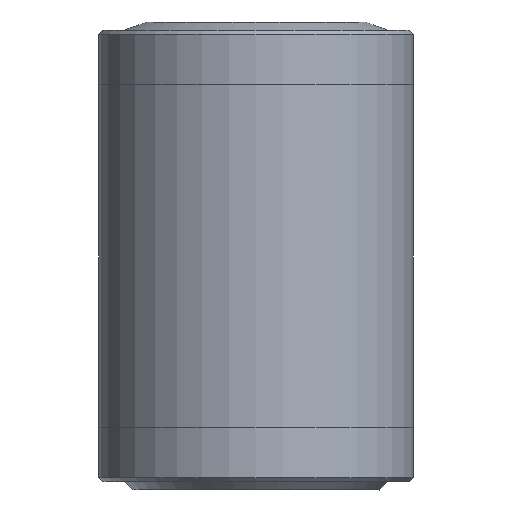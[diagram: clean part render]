
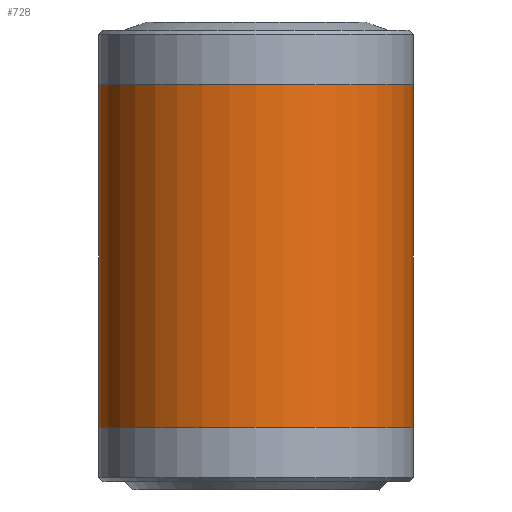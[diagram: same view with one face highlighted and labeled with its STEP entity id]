
A CAD part, front view. The second image highlights one B-rep face of the part: STEP entity #728.
In plain terms, the highlighted cylindrical face has radius 39 mm (diameter 78 mm), a full revolution.
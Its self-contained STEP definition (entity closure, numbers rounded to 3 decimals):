
#31=ELLIPSE('',#2923,55.154,39.);
#32=ELLIPSE('',#2924,55.154,39.);
#92=LINE('',#7399,#147);
#94=LINE('',#7404,#149);
#147=VECTOR('',#3603,1.);
#149=VECTOR('',#3605,1.);
#728=ADVANCED_FACE('',(#912,#913,#914),#810,.T.);
#810=CYLINDRICAL_SURFACE('',#2925,39.);
#912=FACE_BOUND('',#1141,.T.);
#913=FACE_BOUND('',#1142,.T.);
#914=FACE_BOUND('',#1143,.T.);
#1141=EDGE_LOOP('',(#1806,#1807,#1808,#1809));
#1142=EDGE_LOOP('',(#1810));
#1143=EDGE_LOOP('',(#1811));
#1806=ORIENTED_EDGE('',*,*,#2420,.F.);
#1807=ORIENTED_EDGE('',*,*,#2424,.T.);
#1808=ORIENTED_EDGE('',*,*,#2418,.F.);
#1809=ORIENTED_EDGE('',*,*,#2425,.T.);
#1810=ORIENTED_EDGE('',*,*,#2423,.T.);
#1811=ORIENTED_EDGE('',*,*,#2422,.F.);
#2081=VERTEX_POINT('',#7400);
#2082=VERTEX_POINT('',#7401);
#2083=VERTEX_POINT('',#7403);
#2084=VERTEX_POINT('',#7405);
#2085=VERTEX_POINT('',#7409);
#2086=VERTEX_POINT('',#7412);
#2418=EDGE_CURVE('',#2081,#2082,#92,.T.);
#2420=EDGE_CURVE('',#2083,#2084,#94,.T.);
#2422=EDGE_CURVE('',#2085,#2085,#2602,.T.);
#2423=EDGE_CURVE('',#2086,#2086,#2603,.T.);
#2424=EDGE_CURVE('',#2083,#2082,#31,.T.);
#2425=EDGE_CURVE('',#2081,#2084,#32,.T.);
#2602=CIRCLE('',#2919,39.);
#2603=CIRCLE('',#2921,39.);
#2919=AXIS2_PLACEMENT_3D('',#7408,#3609,#3610);
#2921=AXIS2_PLACEMENT_3D('',#7411,#3613,#3614);
#2923=AXIS2_PLACEMENT_3D('',#7414,#3617,#3618);
#2924=AXIS2_PLACEMENT_3D('',#7415,#3619,#3620);
#2925=AXIS2_PLACEMENT_3D('',#7416,#3621,#3622);
#3603=DIRECTION('',(0.,0.,-1.));
#3605=DIRECTION('',(0.,0.,1.));
#3609=DIRECTION('',(0.,0.,1.));
#3610=DIRECTION('',(1.,0.,0.));
#3613=DIRECTION('',(0.,0.,1.));
#3614=DIRECTION('',(-1.,0.,0.));
#3617=DIRECTION('',(0.,-0.707,-0.707));
#3618=DIRECTION('',(0.,0.707,-0.707));
#3619=DIRECTION('',(0.,-0.707,0.707));
#3620=DIRECTION('',(0.,-0.707,-0.707));
#3621=DIRECTION('',(0.,0.,-1.));
#3622=DIRECTION('',(-1.,0.,0.));
#7399=CARTESIAN_POINT('',(316.696,37.5,28.667));
#7400=CARTESIAN_POINT('',(316.696,37.5,-10.333));
#7401=CARTESIAN_POINT('',(316.696,37.5,-48.333));
#7403=CARTESIAN_POINT('',(289.554,37.5,-48.333));
#7404=CARTESIAN_POINT('',(289.554,37.5,-51.333));
#7405=CARTESIAN_POINT('',(289.554,37.5,-10.333));
#7408=CARTESIAN_POINT('',(303.125,0.938,13.167));
#7409=CARTESIAN_POINT('',(342.125,0.938,13.167));
#7411=CARTESIAN_POINT('',(303.125,0.938,-71.833));
#7412=CARTESIAN_POINT('',(264.125,0.938,-71.833));
#7414=CARTESIAN_POINT('',(303.125,0.938,-11.771));
#7415=CARTESIAN_POINT('',(303.125,0.938,-46.896));
#7416=CARTESIAN_POINT('',(303.125,0.938,28.667));
